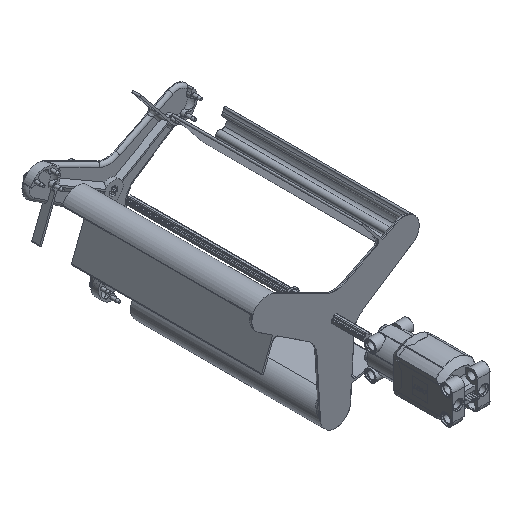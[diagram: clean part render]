
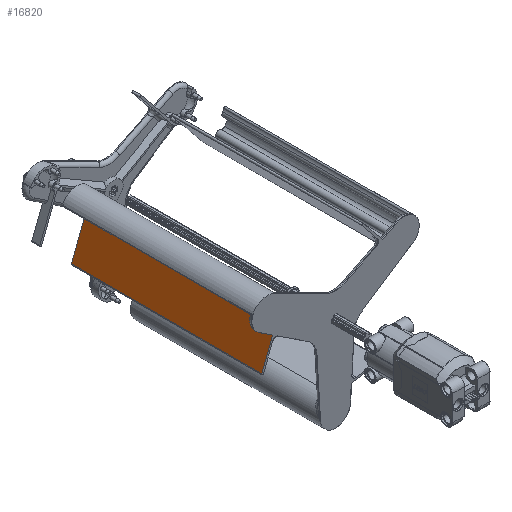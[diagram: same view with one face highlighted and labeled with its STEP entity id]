
A CAD part, isometric view. The second image highlights one B-rep face of the part: STEP entity #16820.
In plain terms, the highlighted planar face has unit normal (-0.934, 0, 0.358).
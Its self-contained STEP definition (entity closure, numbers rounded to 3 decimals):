
#1228=ELLIPSE('',#18023,2.048,2.);
#3075=FACE_OUTER_BOUND('',#4061,.T.);
#4061=EDGE_LOOP('',(#12076,#12077,#12078,#12079,#12080,#12081,#12082));
#5000=LINE('',#25048,#6093);
#5039=LINE('',#25439,#6132);
#5095=LINE('',#26178,#6188);
#5141=LINE('',#26426,#6234);
#5149=LINE('',#26449,#6242);
#5150=LINE('',#26450,#6243);
#6093=VECTOR('',#20013,10.);
#6132=VECTOR('',#20314,5.);
#6188=VECTOR('',#20556,5.);
#6234=VECTOR('',#20716,5.);
#6242=VECTOR('',#20750,5.);
#6243=VECTOR('',#20751,5.);
#7198=VERTEX_POINT('',#25045);
#7199=VERTEX_POINT('',#25047);
#7306=VERTEX_POINT('',#25380);
#7307=VERTEX_POINT('',#25382);
#7316=VERTEX_POINT('',#25438);
#7398=VERTEX_POINT('',#26176);
#7433=VERTEX_POINT('',#26448);
#8846=EDGE_CURVE('',#7198,#7199,#5000,.T.);
#8975=EDGE_CURVE('',#7306,#7307,#1228,.F.);
#8988=EDGE_CURVE('',#7316,#7307,#5039,.T.);
#9118=EDGE_CURVE('',#7306,#7398,#5095,.T.);
#9191=EDGE_CURVE('',#7398,#7199,#5141,.T.);
#9200=EDGE_CURVE('',#7433,#7198,#5149,.T.);
#9201=EDGE_CURVE('',#7433,#7316,#5150,.T.);
#12076=ORIENTED_EDGE('',*,*,#9191,.T.);
#12077=ORIENTED_EDGE('',*,*,#8846,.F.);
#12078=ORIENTED_EDGE('',*,*,#9200,.F.);
#12079=ORIENTED_EDGE('',*,*,#9201,.T.);
#12080=ORIENTED_EDGE('',*,*,#8988,.T.);
#12081=ORIENTED_EDGE('',*,*,#8975,.F.);
#12082=ORIENTED_EDGE('',*,*,#9118,.T.);
#16369=PLANE('',#18193);
#16820=ADVANCED_FACE('',(#3075),#16369,.T.);
#18023=AXIS2_PLACEMENT_3D('',#25383,#20293,#20294);
#18193=AXIS2_PLACEMENT_3D('',#26447,#20748,#20749);
#20013=DIRECTION('',(0.358,0.,0.934));
#20293=DIRECTION('center_axis',(0.934,0.,-0.358));
#20294=DIRECTION('ref_axis',(-0.358,0.,-0.934));
#20314=DIRECTION('',(0.,1.,0.));
#20556=DIRECTION('',(0.358,0.,0.934));
#20716=DIRECTION('',(0.,1.,0.));
#20748=DIRECTION('center_axis',(-0.934,0.,0.358));
#20749=DIRECTION('ref_axis',(0.358,0.,0.934));
#20750=DIRECTION('',(0.,1.,0.));
#20751=DIRECTION('',(0.358,0.,0.934));
#25045=CARTESIAN_POINT('',(-46.529,120.5,-6.431));
#25047=CARTESIAN_POINT('',(-37.184,120.5,17.914));
#25048=CARTESIAN_POINT('',(-46.529,120.5,-6.431));
#25380=CARTESIAN_POINT('',(-39.004,3.,13.174));
#25382=CARTESIAN_POINT('',(-39.738,1.,11.262));
#25383=CARTESIAN_POINT('Origin',(-39.004,1.,13.174));
#25438=CARTESIAN_POINT('',(-39.738,0.5,11.262));
#25439=CARTESIAN_POINT('',(-39.738,0.5,11.262));
#26176=CARTESIAN_POINT('',(-37.184,3.,17.914));
#26178=CARTESIAN_POINT('',(-43.299,3.,1.984));
#26426=CARTESIAN_POINT('',(-37.184,3.,17.914));
#26447=CARTESIAN_POINT('Origin',(-46.529,0.5,-6.431));
#26448=CARTESIAN_POINT('',(-46.529,0.5,-6.431));
#26449=CARTESIAN_POINT('',(-46.529,0.5,-6.431));
#26450=CARTESIAN_POINT('',(-46.529,0.5,-6.431));
